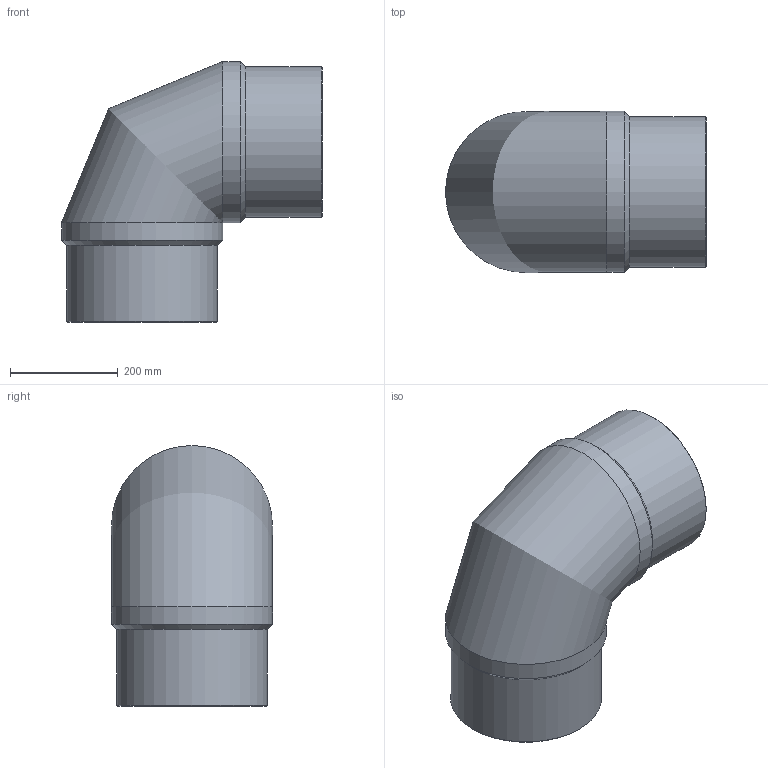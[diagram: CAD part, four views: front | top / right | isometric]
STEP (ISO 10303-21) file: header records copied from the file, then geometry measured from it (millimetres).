
FILE_DESCRIPTION(/* description */ ('Unknown'),/* implementation_level */ '2;1');
FILE_NAME(/* name */ 'G9P280H',/* time_stamp */ '2021-11-29T09:17:09+01:00',/* author */ ('Unknown'),/* organization */ ('Unknown'),/* preprocessor_version */ 'ST-DEVELOPER v16.7',/* originating_system */ 'Solid Edge',/* authorisation */ 'Unknown');
FILE_SCHEMA (('AUTOMOTIVE_DESIGN {1 0 10303 214 3 1 1}'));
Length unit declared in the file: millimetre
Products named in the file (1): G9P280H
Bounding box: 484.5 x 299 x 484.5 mm (x, y, z)
Volume: 20520232.4 mm3; surface area: 1003470.7 mm2
Topology: 1 solids, 1 shells, 14 faces, 34 edges, 22 vertices
Faces by surface type: cylinder 6, cone 4, plane 2, torus 2
Full cylindrical faces by diameter (mm): 203.4 x2, 280 x2, 299 x2
Entity records: 380 total; most frequent: CARTESIAN_POINT 80, DIRECTION 60, ORIENTED_EDGE 38, AXIS2_PLACEMENT_3D 30, EDGE_LOOP 27, FACE_BOUND 27, EDGE_CURVE 19, VERTEX_POINT 18
